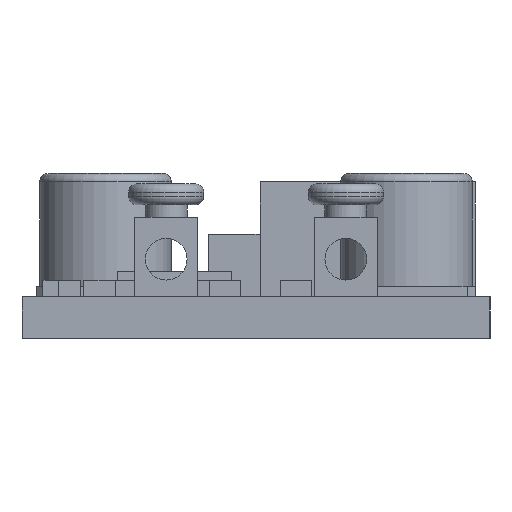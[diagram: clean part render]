
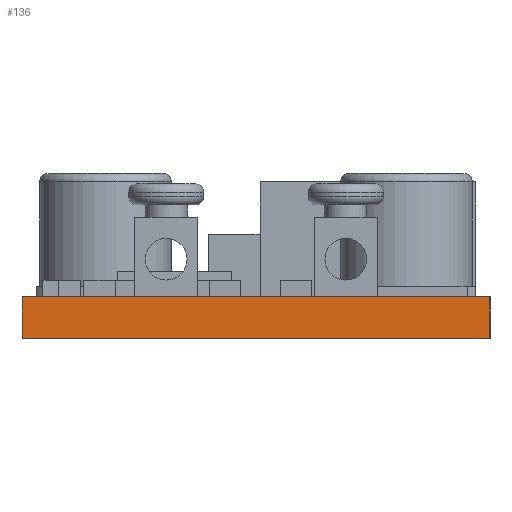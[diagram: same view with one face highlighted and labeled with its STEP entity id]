
A CAD part, left-side view. The second image highlights one B-rep face of the part: STEP entity #136.
In plain terms, the highlighted planar face has unit normal (-1, 0, 0).
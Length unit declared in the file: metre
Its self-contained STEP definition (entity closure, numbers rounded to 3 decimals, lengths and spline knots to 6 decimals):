
#136 = ADVANCED_FACE( '', ( #503 ), #504, .F. );
#503 = FACE_OUTER_BOUND( '', #1171, .T. );
#504 = PLANE( '', #1172 );
#1171 = EDGE_LOOP( '', ( #2128, #2129, #2130, #2131 ) );
#1172 = AXIS2_PLACEMENT_3D( '', #2132, #2133, #2134 );
#2128 = ORIENTED_EDGE( '', *, *, #4046, .T. );
#2129 = ORIENTED_EDGE( '', *, *, #4047, .F. );
#2130 = ORIENTED_EDGE( '', *, *, #4048, .F. );
#2131 = ORIENTED_EDGE( '', *, *, #4049, .T. );
#2132 = CARTESIAN_POINT( '', ( -0.0192, 0.0112, 0.002 ) );
#2133 = DIRECTION( '', ( 1., 0., 0. ) );
#2134 = DIRECTION( '', ( 0., 0., -1. ) );
#4046 = EDGE_CURVE( '', #4836, #4837, #4838, .T. );
#4047 = EDGE_CURVE( '', #4839, #4837, #4840, .T. );
#4048 = EDGE_CURVE( '', #4841, #4839, #4842, .T. );
#4049 = EDGE_CURVE( '', #4841, #4836, #4843, .T. );
#4836 = VERTEX_POINT( '', #6098 );
#4837 = VERTEX_POINT( '', #6099 );
#4838 = LINE( '', #6100, #6101 );
#4839 = VERTEX_POINT( '', #6102 );
#4840 = LINE( '', #6103, #6104 );
#4841 = VERTEX_POINT( '', #6105 );
#4842 = LINE( '', #6106, #6107 );
#4843 = LINE( '', #6108, #6109 );
#6098 = CARTESIAN_POINT( '', ( -0.0192, 0.0112, 0. ) );
#6099 = CARTESIAN_POINT( '', ( -0.0192, -0.0112, 0. ) );
#6100 = CARTESIAN_POINT( '', ( -0.0192, 0.0112, 0. ) );
#6101 = VECTOR( '', #7603, 1. );
#6102 = CARTESIAN_POINT( '', ( -0.0192, -0.0112, 0.002 ) );
#6103 = CARTESIAN_POINT( '', ( -0.0192, -0.0112, 0.002 ) );
#6104 = VECTOR( '', #7604, 1. );
#6105 = CARTESIAN_POINT( '', ( -0.0192, 0.0112, 0.002 ) );
#6106 = CARTESIAN_POINT( '', ( -0.0192, 0.0112, 0.002 ) );
#6107 = VECTOR( '', #7605, 1. );
#6108 = CARTESIAN_POINT( '', ( -0.0192, 0.0112, 0.002 ) );
#6109 = VECTOR( '', #7606, 1. );
#7603 = DIRECTION( '', ( 0., -1., 0. ) );
#7604 = DIRECTION( '', ( 0., 0., -1. ) );
#7605 = DIRECTION( '', ( 0., -1., 0. ) );
#7606 = DIRECTION( '', ( 0., 0., -1. ) );
